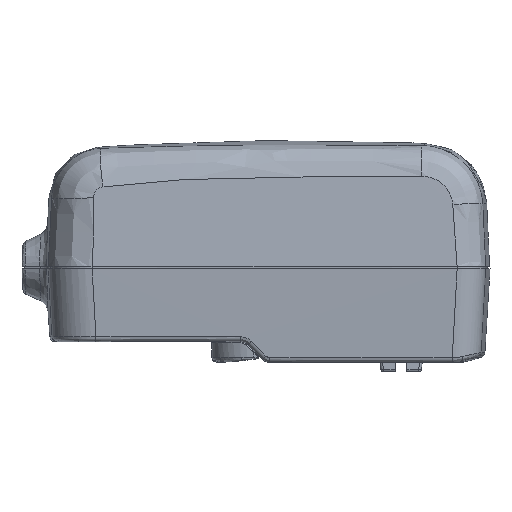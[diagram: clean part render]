
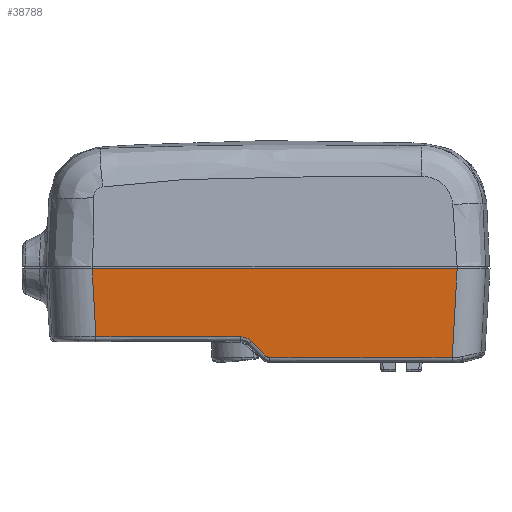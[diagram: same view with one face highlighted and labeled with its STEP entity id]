
A CAD part, front view. The second image highlights one B-rep face of the part: STEP entity #38788.
In plain terms, the highlighted conical face has half-angle 3.5 degrees and reference radius 20000 mm.
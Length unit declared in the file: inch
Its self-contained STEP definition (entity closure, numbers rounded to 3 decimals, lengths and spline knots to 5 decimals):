
#1278 = EDGE_CURVE ( 'NONE', #49367, #36756, #44957, .T. ) ;
#1674 = CARTESIAN_POINT ( 'NONE',  ( -0.91626, -0.81372, -0.51421 ) ) ;
#1803 = B_SPLINE_CURVE_WITH_KNOTS ( 'NONE', 3,
 ( #37081, #41230, #22135, #10343, #13643, #9992, #45371, #45545, #26289 ),
 .UNSPECIFIED., .F., .F.,
 ( 4, 1, 2, 2, 4 ),
 ( 0., 0.25, 0.375, 0.5, 1. ),
 .UNSPECIFIED. ) ;
#2042 = ORIENTED_EDGE ( 'NONE', *, *, #37746, .T. ) ;
#2116 = EDGE_CURVE ( 'NONE', #22118, #49367, #49648, .T. ) ;
#2515 = VERTEX_POINT ( 'NONE', #45847 ) ;
#3403 = CARTESIAN_POINT ( 'NONE',  ( -1.29993, -0.8338, -0.17141 ) ) ;
#3436 = CARTESIAN_POINT ( 'NONE',  ( 0.03502, -0.80519, -0.67169 ) ) ;
#3778 = CARTESIAN_POINT ( 'NONE',  ( 0.0153, -0.80551, -0.66643 ) ) ;
#4500 = EDGE_CURVE ( 'NONE', #2515, #5213, #20138, .T. ) ;
#5213 = VERTEX_POINT ( 'NONE', #20752 ) ;
#5634 = ORIENTED_EDGE ( 'NONE', *, *, #19248, .F. ) ;
#6546 = EDGE_CURVE ( 'NONE', #22118, #28624, #37589, .T. ) ;
#8011 = CARTESIAN_POINT ( 'NONE',  ( 1.45416, -0.84594, 0. ) ) ;
#9192 = ORIENTED_EDGE ( 'NONE', *, *, #1278, .T. ) ;
#9992 = CARTESIAN_POINT ( 'NONE',  ( -0.14611, -0.81424, -0.52171 ) ) ;
#10242 = CARTESIAN_POINT ( 'NONE',  ( 1.4294, -0.81857, -0.4478 ) ) ;
#10343 = CARTESIAN_POINT ( 'NONE',  ( -0.15698, -0.81444, -0.51822 ) ) ;
#10416 = CARTESIAN_POINT ( 'NONE',  ( 1.41702, -0.80489, -0.67169 ) ) ;
#10853 = CARTESIAN_POINT ( 'NONE',  ( -1.30962, -0.84426, 0. ) ) ;
#11156 = CARTESIAN_POINT ( 'NONE',  ( -0.38836, -0.84643, 0. ) ) ;
#11741 = CARTESIAN_POINT ( 'NONE',  ( -1.29024, -0.82334, -0.34281 ) ) ;
#11975 = B_SPLINE_CURVE_WITH_KNOTS ( 'NONE', 3,
 ( #19242, #51292, #27206, #3778, #31543, #15422, #23912, #51469, #3436 ),
 .UNSPECIFIED., .F., .F.,
 ( 4, 1, 2, 2, 4 ),
 ( 0., 0.25, 0.375, 0.5, 1. ),
 .UNSPECIFIED. ) ;
#13643 = CARTESIAN_POINT ( 'NONE',  ( -0.14965, -0.81431, -0.52044 ) ) ;
#14023 = CARTESIAN_POINT ( 'NONE',  ( -0.55198, -0.81432, -0.51421 ) ) ;
#14212 = CARTESIAN_POINT ( 'NONE',  ( -1.28055, -0.81287, -0.51421 ) ) ;
#15364 = ORIENTED_EDGE ( 'NONE', *, *, #31087, .T. ) ;
#15422 = CARTESIAN_POINT ( 'NONE',  ( 0.01881, -0.80541, -0.66822 ) ) ;
#18799 = CARTESIAN_POINT ( 'NONE',  ( -0.10418, -0.81262, -0.54881 ) ) ;
#19029 = EDGE_LOOP ( 'NONE', ( #49774, #9192, #2042, #5634, #15364, #32102, #31278, #46096 ) ) ;
#19133 = CARTESIAN_POINT ( 'NONE',  ( 0.5329, -0.84699, 0. ) ) ;
#19200 = FACE_OUTER_BOUND ( 'NONE', #19029, .T. ) ;
#19242 = CARTESIAN_POINT ( 'NONE',  ( 0.00718, -0.80588, -0.66016 ) ) ;
#19248 = EDGE_CURVE ( 'NONE', #35346, #49712, #45191, .T. ) ;
#20138 = CIRCLE ( 'NONE', #42960, 787.36049 ) ;
#20752 = CARTESIAN_POINT ( 'NONE',  ( 1.41702, -0.80489, -0.67169 ) ) ;
#22118 = VERTEX_POINT ( 'NONE', #10853 ) ;
#22135 = CARTESIAN_POINT ( 'NONE',  ( -0.16812, -0.8146, -0.51543 ) ) ;
#22489 = DIRECTION ( 'NONE',  ( 1., 0., 0. ) ) ;
#23912 = CARTESIAN_POINT ( 'NONE',  ( 0.02452, -0.80527, -0.67059 ) ) ;
#25287 = CARTESIAN_POINT ( 'NONE',  ( -1.28055, -0.81287, -0.51421 ) ) ;
#25533 = CARTESIAN_POINT ( 'NONE',  ( -1.30962, -0.84426, 0. ) ) ;
#26194 = CARTESIAN_POINT ( 'NONE',  ( 1.44178, -0.83225, -0.2239 ) ) ;
#26289 = CARTESIAN_POINT ( 'NONE',  ( -0.10418, -0.81262, -0.54881 ) ) ;
#26707 = CARTESIAN_POINT ( 'NONE',  ( 0.00718, -0.80588, -0.66016 ) ) ;
#27206 = CARTESIAN_POINT ( 'NONE',  ( 0.012, -0.80563, -0.66446 ) ) ;
#28624 = VERTEX_POINT ( 'NONE', #32415 ) ;
#30388 = DIRECTION ( 'NONE',  ( 0., 0., 1. ) ) ;
#30993 = CONICAL_SURFACE ( 'NONE', #46935, 787.40182, 0.061 ) ;
#31087 = EDGE_CURVE ( 'NONE', #35346, #2515, #11975, .T. ) ;
#31278 = ORIENTED_EDGE ( 'NONE', *, *, #49097, .F. ) ;
#31337 = CARTESIAN_POINT ( 'NONE',  ( -1.28055, -0.81287, -0.51421 ) ) ;
#31543 = CARTESIAN_POINT ( 'NONE',  ( 0.01757, -0.80544, -0.66764 ) ) ;
#32102 = ORIENTED_EDGE ( 'NONE', *, *, #4500, .T. ) ;
#32415 = CARTESIAN_POINT ( 'NONE',  ( 1.45416, -0.84594, 0. ) ) ;
#32983 = CARTESIAN_POINT ( 'NONE',  ( 1.45416, -0.84594, 0. ) ) ;
#33451 = CARTESIAN_POINT ( 'NONE',  ( -0.1877, -0.81466, -0.51421 ) ) ;
#34532 = CARTESIAN_POINT ( 'NONE',  ( -0.10418, -0.81262, -0.54881 ) ) ;
#34701 = CARTESIAN_POINT ( 'NONE',  ( -0.06706, -0.81038, -0.58593 ) ) ;
#35346 = VERTEX_POINT ( 'NONE', #40893 ) ;
#36334 = CARTESIAN_POINT ( 'NONE',  ( -0.1877, -0.81466, -0.51421 ) ) ;
#36756 = VERTEX_POINT ( 'NONE', #36334 ) ;
#37081 = CARTESIAN_POINT ( 'NONE',  ( -0.1877, -0.81466, -0.51421 ) ) ;
#37589 = B_SPLINE_CURVE_WITH_KNOTS ( 'NONE', 3,
 ( #43229, #11156, #19133, #8011 ),
 .UNSPECIFIED., .F., .F.,
 ( 4, 4 ),
 ( 0., 1. ),
 .UNSPECIFIED. ) ;
#37746 = EDGE_CURVE ( 'NONE', #36756, #49712, #1803, .T. ) ;
#38013 = CARTESIAN_POINT ( 'NONE',  ( -0.02994, -0.80813, -0.62304 ) ) ;
#38471 = DIRECTION ( 'NONE',  ( 0., 0., 1. ) ) ;
#38788 = ADVANCED_FACE ( 'NONE', ( #19200 ), #30993, .T. ) ;
#40893 = CARTESIAN_POINT ( 'NONE',  ( 0.00718, -0.80588, -0.66016 ) ) ;
#41230 = CARTESIAN_POINT ( 'NONE',  ( -0.17974, -0.81466, -0.51427 ) ) ;
#42094 = CARTESIAN_POINT ( 'NONE',  ( 0.55118, 786.55512, -0.67169 ) ) ;
#42372 = DIRECTION ( 'NONE',  ( 1., 0., 0. ) ) ;
#42960 = AXIS2_PLACEMENT_3D ( 'NONE', #42094, #38471, #22489 ) ;
#43229 = CARTESIAN_POINT ( 'NONE',  ( -1.30962, -0.84426, 0. ) ) ;
#44957 = B_SPLINE_CURVE_WITH_KNOTS ( 'NONE', 3,
 ( #25287, #1674, #14023, #33451 ),
 .UNSPECIFIED., .F., .F.,
 ( 4, 4 ),
 ( 0., 1. ),
 .UNSPECIFIED. ) ;
#45191 = B_SPLINE_CURVE_WITH_KNOTS ( 'NONE', 3,
 ( #26707, #38013, #34701, #34532 ),
 .UNSPECIFIED., .F., .F.,
 ( 4, 4 ),
 ( 0., 1. ),
 .UNSPECIFIED. ) ;
#45371 = CARTESIAN_POINT ( 'NONE',  ( -0.12802, -0.8138, -0.5292 ) ) ;
#45545 = CARTESIAN_POINT ( 'NONE',  ( -0.11525, -0.81329, -0.53773 ) ) ;
#45847 = CARTESIAN_POINT ( 'NONE',  ( 0.03502, -0.80519, -0.67169 ) ) ;
#46096 = ORIENTED_EDGE ( 'NONE', *, *, #6546, .F. ) ;
#46935 = AXIS2_PLACEMENT_3D ( 'NONE', #50327, #30388, #42372 ) ;
#49097 = EDGE_CURVE ( 'NONE', #28624, #5213, #51242, .T. ) ;
#49367 = VERTEX_POINT ( 'NONE', #14212 ) ;
#49648 = B_SPLINE_CURVE_WITH_KNOTS ( 'NONE', 3,
 ( #25533, #3403, #11741, #31337 ),
 .UNSPECIFIED., .F., .F.,
 ( 4, 4 ),
 ( 0., 1. ),
 .UNSPECIFIED. ) ;
#49712 = VERTEX_POINT ( 'NONE', #18799 ) ;
#49774 = ORIENTED_EDGE ( 'NONE', *, *, #2116, .T. ) ;
#50327 = CARTESIAN_POINT ( 'NONE',  ( 0.55118, 786.55512, 0.00403 ) ) ;
#51242 = B_SPLINE_CURVE_WITH_KNOTS ( 'NONE', 3,
 ( #32983, #26194, #10242, #10416 ),
 .UNSPECIFIED., .F., .F.,
 ( 4, 4 ),
 ( 0., 1. ),
 .UNSPECIFIED. ) ;
#51292 = CARTESIAN_POINT ( 'NONE',  ( 0.00902, -0.80578, -0.66201 ) ) ;
#51469 = CARTESIAN_POINT ( 'NONE',  ( 0.02955, -0.80521, -0.67159 ) ) ;
